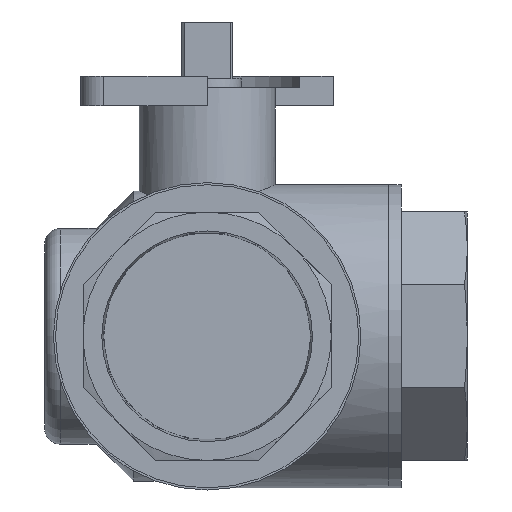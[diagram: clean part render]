
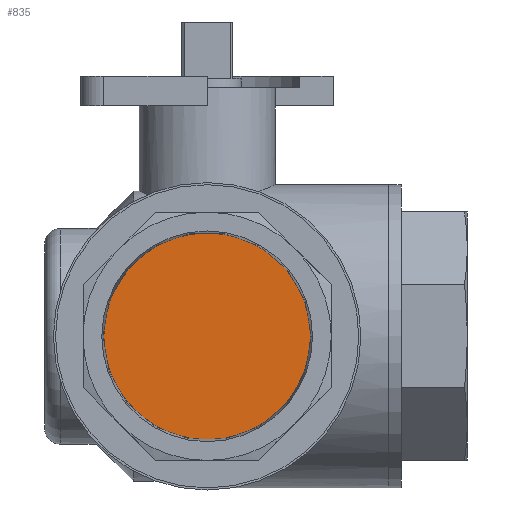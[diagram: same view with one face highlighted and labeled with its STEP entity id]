
A CAD part, left-side view. The second image highlights one B-rep face of the part: STEP entity #835.
In plain terms, the highlighted planar face has unit normal (-1, 0, 0).
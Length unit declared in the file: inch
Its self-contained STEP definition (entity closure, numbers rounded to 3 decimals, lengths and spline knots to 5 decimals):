
#819=CARTESIAN_POINT('',(0.6969,0.56318,1.3525));
#820=DIRECTION('',(1.0,0.0,0.0));
#821=DIRECTION('',(0.0,-1.0,0.0));
#822=AXIS2_PLACEMENT_3D('',#819,#820,#821);
#823=PLANE('',#822);
#824=CARTESIAN_POINT('',(0.6969,1.12636,1.3525));
#825=VERTEX_POINT('',#824);
#826=CARTESIAN_POINT('',(0.6969,0.0,1.3525));
#827=DIRECTION('',(-1.0,0.0,0.0));
#828=DIRECTION('',(0.0,1.0,0.0));
#829=AXIS2_PLACEMENT_3D('',#826,#827,#828);
#830=CIRCLE('',#829,1.12636);
#831=EDGE_CURVE('',#825,#825,#830,.T.);
#832=ORIENTED_EDGE('',*,*,#831,.T.);
#833=EDGE_LOOP('',(#832));
#834=FACE_OUTER_BOUND('',#833,.T.);
#835=ADVANCED_FACE('',(#834),#823,.F.);
